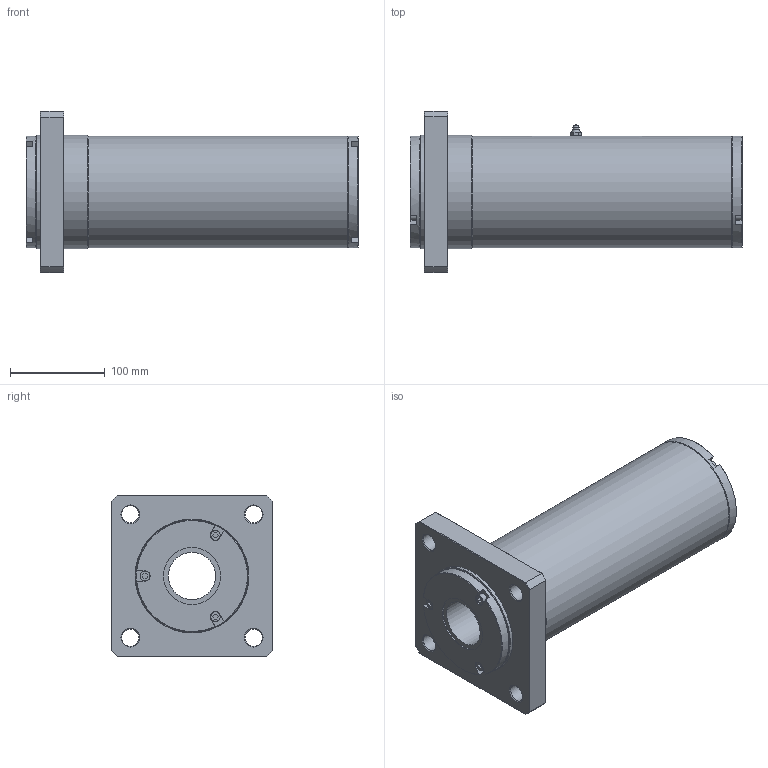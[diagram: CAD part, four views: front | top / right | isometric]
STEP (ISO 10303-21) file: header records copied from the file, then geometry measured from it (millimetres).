
FILE_DESCRIPTION(('STEP AP203'),'1');
FILE_NAME('//192.168.1.1/share/s-4 技術開発/s-4-14_個人別フォルダ/橋詰/09_CAD_DATA/3D/HP用/3Ｄモデル/LCF/LCF-C/LCF-50CVUU.step','2022-02-04T02:46:56',(' '),(' '),'Spatial InterOp 3D',' ',' ');
FILE_SCHEMA(('CONFIG_CONTROL_DESIGN'));
Length unit declared in the file: millimetre
Products named in the file (1): 1
Bounding box: 350 x 170 x 170 mm (x, y, z)
Volume: 3565975.8 mm3; surface area: 252145 mm2
Topology: 1 solids, 2 shells, 177 faces, 426 edges, 271 vertices
Faces by surface type: plane 100, cone 43, cylinder 31, torus 2, sphere 1
Full cylindrical faces by diameter (mm): 6.6 x1, 8.566 x2, 10 x6, 18 x4, 50 x1, 60 x2, 118 x3, 120 x2
Entity records: 5086 total; most frequent: CARTESIAN_POINT 1173, DIRECTION 786, ORIENTED_EDGE 740, EDGE_CURVE 370, AXIS2_PLACEMENT_3D 297, VERTEX_POINT 258, EDGE_LOOP 246, FACE_OUTER_BOUND 200
